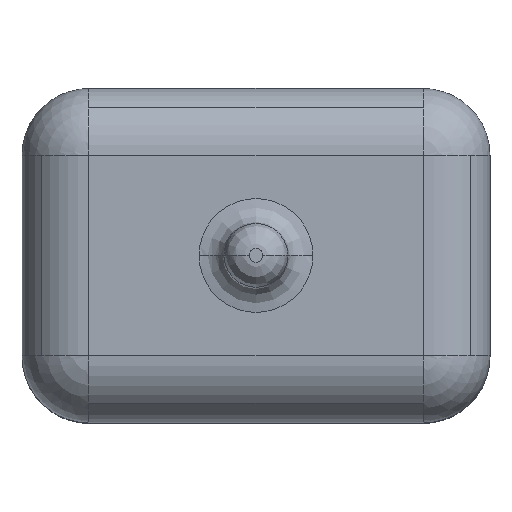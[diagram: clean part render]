
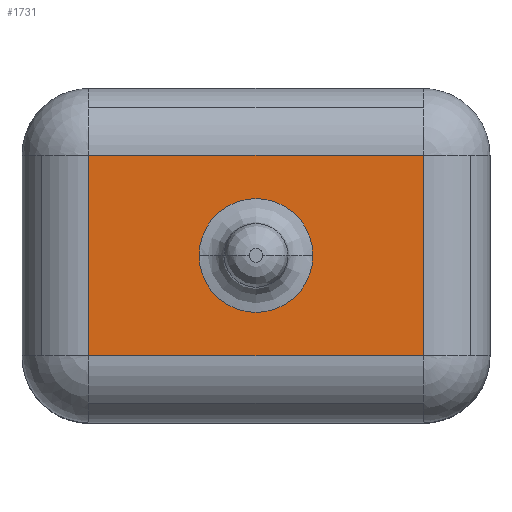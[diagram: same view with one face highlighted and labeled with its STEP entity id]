
A CAD part, top view. The second image highlights one B-rep face of the part: STEP entity #1731.
In plain terms, the highlighted planar face has unit normal (0, 0, 1).
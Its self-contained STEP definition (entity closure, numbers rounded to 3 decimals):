
#605=CARTESIAN_POINT('',(0.206,1.453,-1.52));
#606=VERTEX_POINT('',#605);
#614=CARTESIAN_POINT('',(2.206,1.453,-1.52));
#615=VERTEX_POINT('',#614);
#616=CARTESIAN_POINT('',(0.206,1.453,-1.52));
#617=DIRECTION('',(1.0,0.0,0.0));
#618=VECTOR('',#617,2.);
#619=LINE('',#616,#618);
#620=EDGE_CURVE('',#606,#615,#619,.T.);
#696=CARTESIAN_POINT('',(2.206,0.253,-1.52));
#697=VERTEX_POINT('',#696);
#698=CARTESIAN_POINT('',(2.206,1.453,-1.52));
#699=DIRECTION('',(0.0,-1.0,0.0));
#700=VECTOR('',#699,1.2);
#701=LINE('',#698,#700);
#702=EDGE_CURVE('',#615,#697,#701,.T.);
#729=CARTESIAN_POINT('',(0.206,0.253,-1.52));
#730=VERTEX_POINT('',#729);
#738=CARTESIAN_POINT('',(0.206,0.253,-1.52));
#739=DIRECTION('',(0.0,1.0,0.0));
#740=VECTOR('',#739,1.2);
#741=LINE('',#738,#740);
#742=EDGE_CURVE('',#730,#606,#741,.T.);
#776=CARTESIAN_POINT('',(2.206,0.253,-1.52));
#777=DIRECTION('',(-1.0,0.0,0.0));
#778=VECTOR('',#777,2.);
#779=LINE('',#776,#778);
#780=EDGE_CURVE('',#697,#730,#779,.T.);
#1399=CARTESIAN_POINT('',(1.547,0.853,-1.52));
#1400=VERTEX_POINT('',#1399);
#1417=CARTESIAN_POINT('',(0.866,0.853,-1.52));
#1418=VERTEX_POINT('',#1417);
#1426=CARTESIAN_POINT('',(1.206,0.853,-1.52));
#1427=DIRECTION('',(0.0,0.0,1.0));
#1428=DIRECTION('',(-1.0,0.0,0.0));
#1429=AXIS2_PLACEMENT_3D('',#1426,#1427,#1428);
#1430=CIRCLE('',#1429,0.341);
#1431=EDGE_CURVE('',#1418,#1400,#1430,.T.);
#1704=CARTESIAN_POINT('',(1.206,0.853,-1.52));
#1705=DIRECTION('',(0.0,0.0,1.0));
#1706=DIRECTION('',(-1.0,0.0,0.0));
#1707=AXIS2_PLACEMENT_3D('',#1704,#1705,#1706);
#1708=CIRCLE('',#1707,0.341);
#1709=EDGE_CURVE('',#1400,#1418,#1708,.T.);
#1716=CARTESIAN_POINT('',(2.003,0.857,-1.52));
#1717=DIRECTION('',(0.0,0.0,1.0));
#1718=DIRECTION('',(1.0,0.0,0.0));
#1719=AXIS2_PLACEMENT_3D('',#1716,#1717,#1718);
#1720=PLANE('',#1719);
#1721=ORIENTED_EDGE('',*,*,#780,.F.);
#1722=ORIENTED_EDGE('',*,*,#702,.F.);
#1723=ORIENTED_EDGE('',*,*,#620,.F.);
#1724=ORIENTED_EDGE('',*,*,#742,.F.);
#1725=EDGE_LOOP('',(#1721,#1722,#1723,#1724));
#1726=FACE_OUTER_BOUND('',#1725,.T.);
#1727=ORIENTED_EDGE('',*,*,#1709,.F.);
#1728=ORIENTED_EDGE('',*,*,#1431,.F.);
#1729=EDGE_LOOP('',(#1727,#1728));
#1730=FACE_BOUND('',#1729,.T.);
#1731=ADVANCED_FACE('',(#1726,#1730),#1720,.T.);
